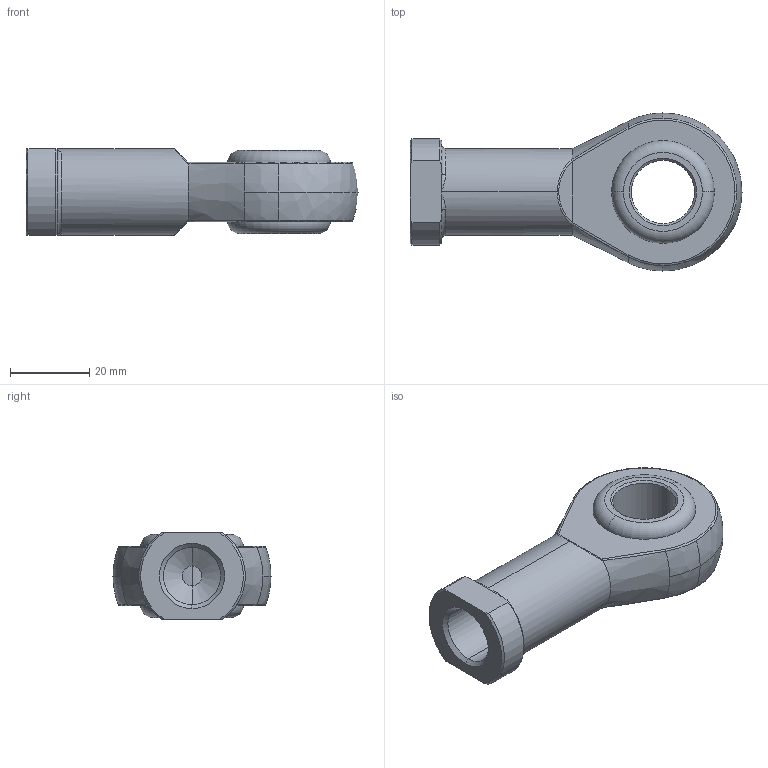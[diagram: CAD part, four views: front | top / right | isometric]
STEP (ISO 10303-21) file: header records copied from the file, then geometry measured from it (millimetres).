
FILE_DESCRIPTION (( 'STEP AP214' ), '1' );
FILE_NAME ('50_Mafsal_Baglantý.STEP', '2020-12-04T18:40:21', ( '' ), ( '' ), 'SwSTEP 2.0', 'SolidWorks 2021', '' );
FILE_SCHEMA (( 'AUTOMOTIVE_DESIGN' ));
Length unit declared in the file: millimetre
Products named in the file (1): 50_Mafsal_Baglantý
Bounding box: 84 x 40 x 22 mm (x, y, z)
Volume: 28041.3 mm3; surface area: 10530.9 mm2
Topology: 1 solids, 1 shells, 64 faces, 156 edges, 91 vertices
Faces by surface type: cone 14, bspline 12, cylinder 12, plane 11, torus 9, sphere 6
Entity records: 2583 total; most frequent: CARTESIAN_POINT 1162, ORIENTED_EDGE 298, DIRECTION 287, EDGE_CURVE 149, AXIS2_PLACEMENT_3D 127, VERTEX_POINT 90, CIRCLE 74, EDGE_LOOP 69
